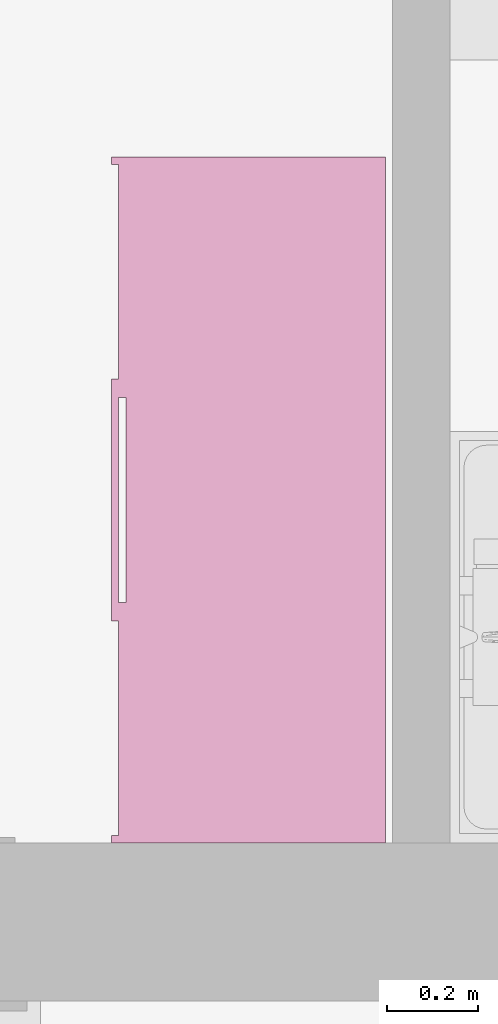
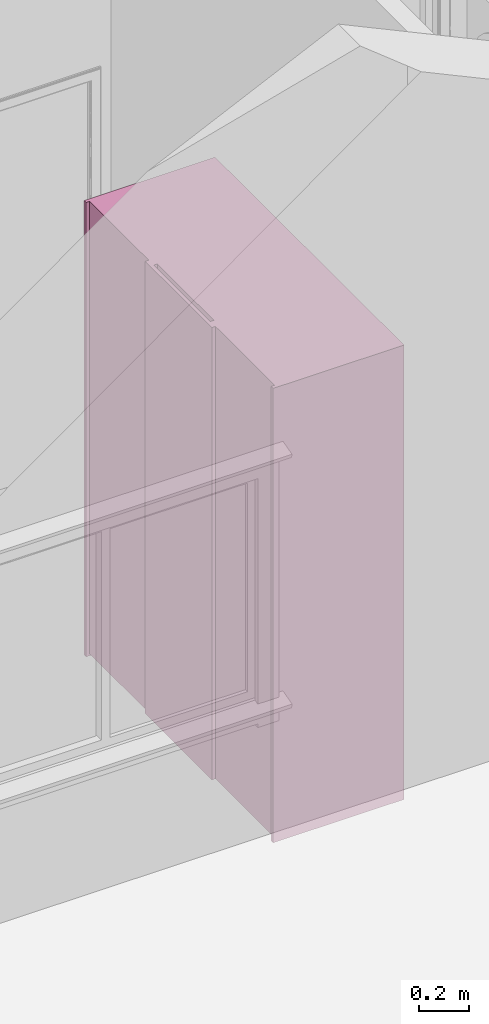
# One storey, part 40 of 44: 1 furnishing.
"""IFC2X3 building model written with IfcOpenShell, lengths in millimetres."""

from ifc_helpers import new_model, entity, si_unit, converted_unit, direction, frame, frame_2d, origin, place, context, subcontext, project, spatial, polyline, rectangle, outline, extrude, source, transform, mapped, material, material_list, type_object, type_shapes, element, save


model = new_model("IFC2X3")

# Units and contexts
model_context = context("Model", 3, precision=0.01, world=origin(), true_north=direction((0.0, 1.0)))
body_context = subcontext(model_context, "Body", "Model", "MODEL_VIEW")
ifc_project = project(units=[si_unit("LENGTHUNIT", "METRE", prefix="MILLI"), si_unit("AREAUNIT", "SQUARE_METRE"), si_unit("VOLUMEUNIT", "CUBIC_METRE"), converted_unit("PLANEANGLEUNIT", "DEGREE", entity("IfcPlaneAngleMeasure", 0.017453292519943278), si_unit("PLANEANGLEUNIT", "RADIAN"), dimensions=[0, 0, 0, 0, 0, 0, 0])], contexts=[model_context])

# Site, building, storey, space
site_placement = place(None, origin())
site = spatial("IfcSite", under=ifc_project, at=site_placement, Name="Default", CompositionType="ELEMENT")
building_placement = place(site_placement, origin())
building = spatial("IfcBuilding", under=site, at=building_placement, CompositionType="ELEMENT")
storey_placement = place(building_placement, frame((0.0, 0.0, 2681.0)))
storey = spatial("IfcBuildingStorey", under=building, at=storey_placement, Name="Et. 2", CompositionType="ELEMENT", Elevation=2681.0)
space_placement = place(storey_placement, origin())
space = spatial("IfcSpace", under=storey, at=space_placement, Name="214", CompositionType="ELEMENT", InteriorOrExteriorSpace="INTERNAL")

# Furnishing
ifc_material_1 = material(Name="Møbler - Hvit")
ifc_material_2 = material(Name="Møbler - Grå mørk")
ifc_material_list = material_list([ifc_material_1, ifc_material_2])
furniture_type = type_object("IfcFurnitureType", Name="Focus Garderobeskap - Skyvedører 3 slette:150x60x220", AssemblyPlace="NOTDEFINED", material=ifc_material_list)
shared_shape = source(origin(), body_context, "Body", "SweptSolid", [
    extrude(rectangle(XDim=16.000000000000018, YDim=509.333333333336, at=frame_2d((-1.687538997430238e-14, -4.263256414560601e-14), x_axis=(1.0, 0.0))), frame((-479.33333333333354, 276.0, 10.0), z_axis=(0.0, 0.0, 1.0), x_axis=(0.0, 1.0, 0.0)), (0.0, 0.0, 1.0), 2189.9999999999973),
    extrude(rectangle(XDim=16.000000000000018, YDim=529.3333333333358, at=frame_2d((-1.687538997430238e-14, 5.684341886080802e-14), x_axis=(1.0, 0.0))), frame((0.0, 292.0, 10.0), z_axis=(0.0, 0.0, 1.0), x_axis=(0.0, 1.0, 0.0)), (0.0, 0.0, 1.0), 2189.9999999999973),
    extrude(rectangle(XDim=16.000000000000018, YDim=509.33333333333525, at=frame_2d((-1.687538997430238e-14, 0.0), x_axis=(1.0, 0.0))), frame((479.3333333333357, 276.0, 10.0), z_axis=(0.0, 0.0, 1.0), x_axis=(0.0, 1.0, 0.0)), (0.0, 0.0, 1.0), 2189.9999999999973),
    extrude(outline(polyline([(-442.0, -750.0), (158.0, -750.0), (158.0, -734.0), (126.0, -734.0), (126.0, 734.0), (158.0, 734.0), (158.0, 750.0), (-442.0, 750.0), (-442.0, -750.0)])), frame((0.0, 142.0, 0.0), z_axis=(0.0, 0.0, 1.0), x_axis=(0.0, 1.0, 0.0)), (0.0, 0.0, 1.0), 2200.0000000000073),
])
type_shapes(furniture_type, [shared_shape])
furnishing_placement = place(space_placement, frame((31137.009586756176, 9504.18095768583, 0.0), z_axis=(0.0, 0.0, 1.0), x_axis=(0.0, 1.0, 0.0)))
element("IfcFurnishingElement", 1, at=furnishing_placement, inside=space, type_object=furniture_type, material=ifc_material_list, Name="Focus Garderobeskap - Skyvedører 3 slette:150x60x220", context=body_context, shape_type="MappedRepresentation", body=[
    mapped(shared_shape, transform((0.0, 0.0, 0.0), scale=1.0)),
])

save(model, "model.ifc")
